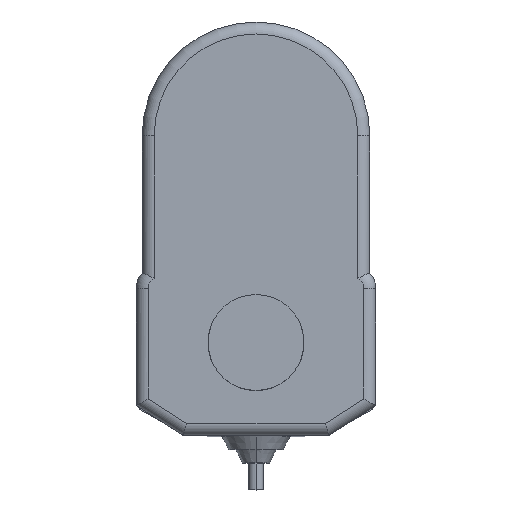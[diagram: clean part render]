
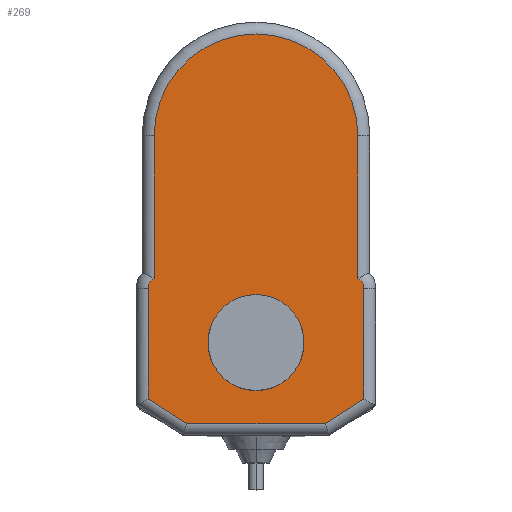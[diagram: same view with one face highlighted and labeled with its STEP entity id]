
A CAD part, top view. The second image highlights one B-rep face of the part: STEP entity #269.
In plain terms, the highlighted planar face has unit normal (0, 0, 1).
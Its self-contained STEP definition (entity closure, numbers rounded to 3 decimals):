
#269 = ADVANCED_FACE ( 'NONE', ( #3154, #3155 ), #3156, .T. ) ;
#298 = ORIENTED_EDGE ( 'NONE', *, *, #319, .T. ) ;
#319 = EDGE_CURVE ( 'NONE', #333, #346, #3565, .T. ) ;
#333 = VERTEX_POINT ( 'NONE', #3737 ) ;
#346 = VERTEX_POINT ( 'NONE', #3772 ) ;
#362 = ORIENTED_EDGE ( 'NONE', *, *, #390, .T. ) ;
#390 = EDGE_CURVE ( 'NONE', #346, #404, #3966, .T. ) ;
#404 = VERTEX_POINT ( 'NONE', #4042 ) ;
#430 = ORIENTED_EDGE ( 'NONE', *, *, #456, .T. ) ;
#433 = VERTEX_POINT ( 'NONE', #1317 ) ;
#456 = EDGE_CURVE ( 'NONE', #404, #470, #1478, .T. ) ;
#470 = VERTEX_POINT ( 'NONE', #1565 ) ;
#488 = ORIENTED_EDGE ( 'NONE', *, *, #499, .T. ) ;
#499 = EDGE_CURVE ( 'NONE', #470, #2953, #1788, .T. ) ;
#736 = ORIENTED_EDGE ( 'NONE', *, *, #5167, .F. ) ;
#1317 = CARTESIAN_POINT ( 'NONE',  ( 0., 8., 114.9 ) ) ;
#1343 = EDGE_LOOP ( 'NONE', ( #3913, #736 ) ) ;
#1360 = ORIENTED_EDGE ( 'NONE', *, *, #1671, .T. ) ;
#1372 = CIRCLE ( 'NONE', #1373, 2. ) ;
#1373 = AXIS2_PLACEMENT_3D ( 'NONE', #1374, #1375, #1376 ) ;
#1374 = CARTESIAN_POINT ( 'NONE',  ( 16., 9., 114.9 ) ) ;
#1375 = DIRECTION ( 'NONE',  ( 0., 0., 1. ) ) ;
#1376 = DIRECTION ( 'NONE',  ( 1., 0., 0. ) ) ;
#1453 = CARTESIAN_POINT ( 'NONE',  ( 17., 10.732, 114.9 ) ) ;
#1478 = LINE ( 'NONE', #1479, #1480 ) ;
#1479 = CARTESIAN_POINT ( 'NONE',  ( 18.925, -8.813, 114.9 ) ) ;
#1480 = VECTOR ( 'NONE', #1481, 1000. ) ;
#1481 = DIRECTION ( 'NONE',  ( 0.843, 0.537, 0. ) ) ;
#1565 = CARTESIAN_POINT ( 'NONE',  ( 18., -9.403, 114.9 ) ) ;
#1566 = CIRCLE ( 'NONE', #1567, 8. ) ;
#1567 = AXIS2_PLACEMENT_3D ( 'NONE', #1568, #1569, #1570 ) ;
#1568 = CARTESIAN_POINT ( 'NONE',  ( 0., 0., 114.9 ) ) ;
#1569 = DIRECTION ( 'NONE',  ( 0., 0., 1. ) ) ;
#1570 = DIRECTION ( 'NONE',  ( 1., 0., 0. ) ) ;
#1671 = EDGE_CURVE ( 'NONE', #5153, #1827, #3163, .T. ) ;
#1788 = LINE ( 'NONE', #1789, #1790 ) ;
#1789 = CARTESIAN_POINT ( 'NONE',  ( 18., 9., 114.9 ) ) ;
#1790 = VECTOR ( 'NONE', #1791, 1000. ) ;
#1791 = DIRECTION ( 'NONE',  ( 0., 1., 0. ) ) ;
#1827 = VERTEX_POINT ( 'NONE', #3287 ) ;
#1908 = LINE ( 'NONE', #1909, #1910 ) ;
#1909 = CARTESIAN_POINT ( 'NONE',  ( 17., 34.5, 114.9 ) ) ;
#1910 = VECTOR ( 'NONE', #1911, 1000. ) ;
#1911 = DIRECTION ( 'NONE',  ( 0., 1., 0. ) ) ;
#2109 = CARTESIAN_POINT ( 'NONE',  ( 17., 34.5, 114.9 ) ) ;
#2214 = ORIENTED_EDGE ( 'NONE', *, *, #2533, .T. ) ;
#2265 = VERTEX_POINT ( 'NONE', #3533 ) ;
#2533 = EDGE_CURVE ( 'NONE', #1827, #2688, #3773, .T. ) ;
#2688 = VERTEX_POINT ( 'NONE', #3842 ) ;
#2753 = CIRCLE ( 'NONE', #2754, 17. ) ;
#2754 = AXIS2_PLACEMENT_3D ( 'NONE', #2755, #2756, #2757 ) ;
#2755 = CARTESIAN_POINT ( 'NONE',  ( 0., 34.5, 114.9 ) ) ;
#2756 = DIRECTION ( 'NONE',  ( 0., 0., 1. ) ) ;
#2757 = DIRECTION ( 'NONE',  ( 1., 0., 0. ) ) ;
#2776 = EDGE_LOOP ( 'NONE', ( #298, #362, #430, #488, #3361, #4217, #5106, #1360, #2214, #3093 ) ) ;
#2847 = CARTESIAN_POINT ( 'NONE',  ( -17., 34.5, 114.9 ) ) ;
#2949 = CIRCLE ( 'NONE', #2950, 8. ) ;
#2950 = AXIS2_PLACEMENT_3D ( 'NONE', #2951, #2956, #2957 ) ;
#2951 = CARTESIAN_POINT ( 'NONE',  ( 0., 0., 114.9 ) ) ;
#2953 = VERTEX_POINT ( 'NONE', #3917 ) ;
#2956 = DIRECTION ( 'NONE',  ( 0., 0., 1. ) ) ;
#2957 = DIRECTION ( 'NONE',  ( 1., 0., 0. ) ) ;
#3093 = ORIENTED_EDGE ( 'NONE', *, *, #3413, .T. ) ;
#3154 = FACE_OUTER_BOUND ( 'NONE', #2776, .T. ) ;
#3155 = FACE_BOUND ( 'NONE', #1343, .T. ) ;
#3156 = PLANE ( 'NONE',  #3157 ) ;
#3157 = AXIS2_PLACEMENT_3D ( 'NONE', #3158, #3159, #3160 ) ;
#3158 = CARTESIAN_POINT ( 'NONE',  ( 0., 34.5, 114.9 ) ) ;
#3159 = DIRECTION ( 'NONE',  ( 0., 0., 1. ) ) ;
#3160 = DIRECTION ( 'NONE',  ( 1., 0., 0. ) ) ;
#3163 = LINE ( 'NONE', #3164, #3165 ) ;
#3164 = CARTESIAN_POINT ( 'NONE',  ( -17., 11.646, 114.9 ) ) ;
#3165 = VECTOR ( 'NONE', #3166, 1000. ) ;
#3166 = DIRECTION ( 'NONE',  ( 0., -1., 0. ) ) ;
#3287 = CARTESIAN_POINT ( 'NONE',  ( -17., 10.732, 114.9 ) ) ;
#3361 = ORIENTED_EDGE ( 'NONE', *, *, #3670, .T. ) ;
#3413 = EDGE_CURVE ( 'NONE', #2688, #333, #4067, .T. ) ;
#3533 = CARTESIAN_POINT ( 'NONE',  ( 0., -8., 114.9 ) ) ;
#3565 = LINE ( 'NONE', #3566, #3567 ) ;
#3566 = CARTESIAN_POINT ( 'NONE',  ( -11.077, -13.813, 114.9 ) ) ;
#3567 = VECTOR ( 'NONE', #3568, 1000. ) ;
#3568 = DIRECTION ( 'NONE',  ( 0.843, -0.537, 0. ) ) ;
#3670 = EDGE_CURVE ( 'NONE', #2953, #3826, #1372, .T. ) ;
#3737 = CARTESIAN_POINT ( 'NONE',  ( -18., -9.403, 114.9 ) ) ;
#3772 = CARTESIAN_POINT ( 'NONE',  ( -11.569, -13.5, 114.9 ) ) ;
#3773 = CIRCLE ( 'NONE', #3774, 2. ) ;
#3774 = AXIS2_PLACEMENT_3D ( 'NONE', #3775, #3776, #3777 ) ;
#3775 = CARTESIAN_POINT ( 'NONE',  ( -16., 9., 114.9 ) ) ;
#3776 = DIRECTION ( 'NONE',  ( 0., 0., 1. ) ) ;
#3777 = DIRECTION ( 'NONE',  ( 1., 0., 0. ) ) ;
#3826 = VERTEX_POINT ( 'NONE', #1453 ) ;
#3842 = CARTESIAN_POINT ( 'NONE',  ( -18., 9., 114.9 ) ) ;
#3913 = ORIENTED_EDGE ( 'NONE', *, *, #4036, .F. ) ;
#3917 = CARTESIAN_POINT ( 'NONE',  ( 18., 9., 114.9 ) ) ;
#3966 = LINE ( 'NONE', #3967, #3968 ) ;
#3967 = CARTESIAN_POINT ( 'NONE',  ( 12.152, -13.5, 114.9 ) ) ;
#3968 = VECTOR ( 'NONE', #3969, 1000. ) ;
#3969 = DIRECTION ( 'NONE',  ( 1., 0., 0. ) ) ;
#4036 = EDGE_CURVE ( 'NONE', #433, #2265, #1566, .T. ) ;
#4042 = CARTESIAN_POINT ( 'NONE',  ( 11.569, -13.5, 114.9 ) ) ;
#4067 = LINE ( 'NONE', #4068, #4069 ) ;
#4068 = CARTESIAN_POINT ( 'NONE',  ( -18., -10.5, 114.9 ) ) ;
#4069 = VECTOR ( 'NONE', #4073, 1000. ) ;
#4073 = DIRECTION ( 'NONE',  ( 0., -1., 0. ) ) ;
#4217 = ORIENTED_EDGE ( 'NONE', *, *, #4535, .T. ) ;
#4535 = EDGE_CURVE ( 'NONE', #3826, #4699, #1908, .T. ) ;
#4699 = VERTEX_POINT ( 'NONE', #2109 ) ;
#5106 = ORIENTED_EDGE ( 'NONE', *, *, #5135, .T. ) ;
#5135 = EDGE_CURVE ( 'NONE', #4699, #5153, #2753, .T. ) ;
#5153 = VERTEX_POINT ( 'NONE', #2847 ) ;
#5167 = EDGE_CURVE ( 'NONE', #2265, #433, #2949, .T. ) ;
